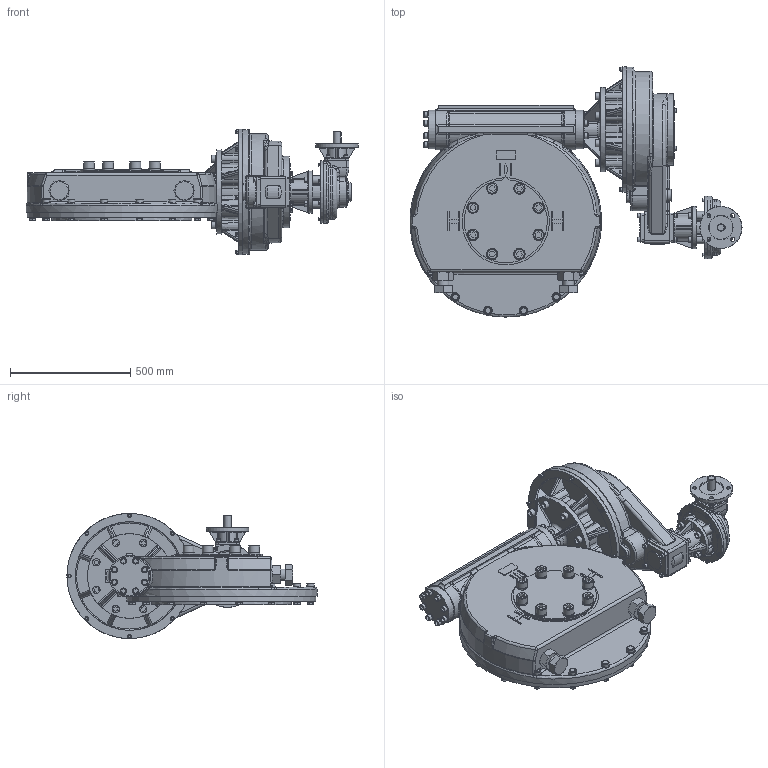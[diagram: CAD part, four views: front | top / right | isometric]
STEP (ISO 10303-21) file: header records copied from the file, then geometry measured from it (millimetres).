
FILE_DESCRIPTION( ( 'Unknown' ), '1' );
FILE_NAME( 'X:/CURRENT/PUB/IW/IW-2009/IW-2009-MODELS/IW - 3D Models Simplified STEP/PUB-IW115IS12IB6-MOTF14_simplified.stp', 'Unknown', ( 'Unknown' ), ( 'Unknown' ), 'PSStep 15.0.49', 'Unknown', ' ' );
FILE_SCHEMA( ( 'AUTOMOTIVE_DESIGN { 1 0 10303 214 1 1 1 1 }' ) );
Length unit declared in the file: millimetre
Products named in the file (232): ¹_+; 1; 2; 3; 4; 5; 6; 7; 8; 9; 10; 11; 12; 13; 14; 15; 16; 17; 18; 19; 20; 21; 22; 23; 24; 25; 26; 27; 28; 29; 30; 31; 32; 33; 34; 35; 36; 37; 38; 39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
Bounding box: 1377.97 x 1038.5 x 520 mm (x, y, z)
Surface area: 3991863.6 mm2 (no closed solid volume)
Topology: 0 solids, 2354 shells, 2354 faces, 14999 edges, 14656 vertices
Faces by surface type: plane 968, cylinder 646, bspline 251, cone 238, torus 159, sphere 92
Full cylindrical faces by diameter (mm): 13 x8, 13.5 x16, 16 x16, 16.5 x4, 16.6 x12, 18 x8, 19 x8, 24 x20, 30 x13, 30.7 x8, 32 x8, 45 x8, 47 x8, 48 x2, 50 x1, 80 x1, 100 x1, 107.95 x1, 160 x2, 170 x1, 175 x2, 240 x1, 250 x1, 260 x1, 296 x1, 340 x1, 350 x1, 362 x1, 520 x1, 580 x1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
Entity records: 238208 total; most frequent: CARTESIAN_POINT 116420, DIRECTION 19233, VERTEX_POINT 14532, ORIENTED_EDGE 14523, EDGE_CURVE 14523, LINE 6641, VECTOR 6641, AXIS2_PLACEMENT_3D 6296
